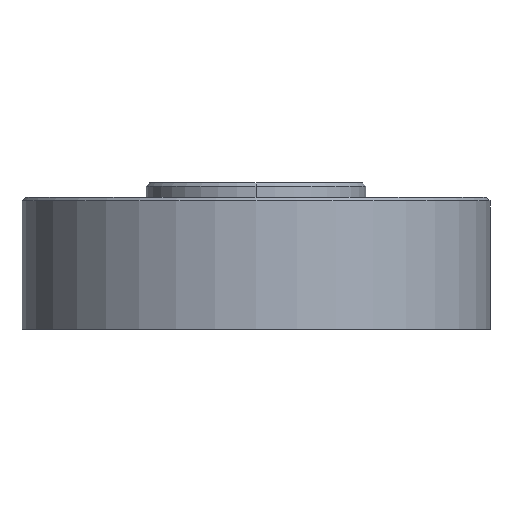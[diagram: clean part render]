
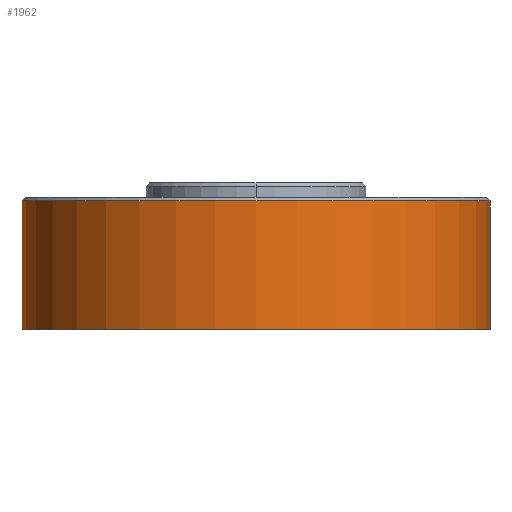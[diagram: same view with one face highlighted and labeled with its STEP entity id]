
A CAD part, left-side view. The second image highlights one B-rep face of the part: STEP entity #1962.
In plain terms, the highlighted cylindrical face has radius 101.575 mm (diameter 203.149 mm), a partial arc.
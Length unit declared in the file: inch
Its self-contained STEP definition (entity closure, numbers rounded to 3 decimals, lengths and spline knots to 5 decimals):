
#241 = CARTESIAN_POINT ( 'NONE',  ( 0., 3.999, -2.249 ) ) ;
#292 = EDGE_CURVE ( 'NONE', #7356, #8483, #6068, .T. ) ;
#667 = ORIENTED_EDGE ( 'NONE', *, *, #292, .F. ) ;
#1163 = CIRCLE ( 'NONE', #1164, 3.999 ) ;
#1164 = AXIS2_PLACEMENT_3D ( 'NONE', #1165, #1166, #1167 ) ;
#1165 = CARTESIAN_POINT ( 'NONE',  ( 0., 0., -2.249 ) ) ;
#1166 = DIRECTION ( 'NONE',  ( 0., 0., 1. ) ) ;
#1167 = DIRECTION ( 'NONE',  ( 0., 1., 0. ) ) ;
#1196 = ORIENTED_EDGE ( 'NONE', *, *, #2603, .F. ) ;
#1719 = EDGE_LOOP ( 'NONE', ( #1196, #667, #8276, #7580, #7059 ) ) ;
#1962 = ADVANCED_FACE ( 'NONE', ( #6838 ), #6839, .T. ) ;
#2365 = VERTEX_POINT ( 'NONE', #7054 ) ;
#2603 = EDGE_CURVE ( 'NONE', #8483, #2365, #7224, .T. ) ;
#2627 = CARTESIAN_POINT ( 'NONE',  ( 0., 3.999, -0.06 ) ) ;
#3332 = CARTESIAN_POINT ( 'NONE',  ( 0., -3.999, -0.06 ) ) ;
#5232 = EDGE_CURVE ( 'NONE', #5602, #5330, #7119, .T. ) ;
#5330 = VERTEX_POINT ( 'NONE', #7541 ) ;
#5464 = EDGE_CURVE ( 'NONE', #7356, #5602, #8117, .T. ) ;
#5602 = VERTEX_POINT ( 'NONE', #241 ) ;
#5838 = EDGE_CURVE ( 'NONE', #5330, #2365, #1163, .T. ) ;
#6068 = CIRCLE ( 'NONE', #6069, 3.999 ) ;
#6069 = AXIS2_PLACEMENT_3D ( 'NONE', #6070, #6071, #6072 ) ;
#6070 = CARTESIAN_POINT ( 'NONE',  ( 0., 0., -0.06 ) ) ;
#6071 = DIRECTION ( 'NONE',  ( 0., 0., 1. ) ) ;
#6072 = DIRECTION ( 'NONE',  ( -1., 0., 0. ) ) ;
#6838 = FACE_OUTER_BOUND ( 'NONE', #1719, .T. ) ;
#6839 = CYLINDRICAL_SURFACE ( 'NONE', #6840, 3.999 ) ;
#6840 = AXIS2_PLACEMENT_3D ( 'NONE', #6841, #6842, #6852 ) ;
#6841 = CARTESIAN_POINT ( 'NONE',  ( 0., 0., -0.06 ) ) ;
#6842 = DIRECTION ( 'NONE',  ( 0., 0., -1. ) ) ;
#6852 = DIRECTION ( 'NONE',  ( 0., 1., 0. ) ) ;
#7054 = CARTESIAN_POINT ( 'NONE',  ( 0., -3.999, -2.249 ) ) ;
#7059 = ORIENTED_EDGE ( 'NONE', *, *, #5838, .T. ) ;
#7119 = CIRCLE ( 'NONE', #7120, 3.999 ) ;
#7120 = AXIS2_PLACEMENT_3D ( 'NONE', #7121, #7122, #7123 ) ;
#7121 = CARTESIAN_POINT ( 'NONE',  ( 0., 0., -2.249 ) ) ;
#7122 = DIRECTION ( 'NONE',  ( 0., 0., 1. ) ) ;
#7123 = DIRECTION ( 'NONE',  ( 0., 1., 0. ) ) ;
#7224 = LINE ( 'NONE', #7225, #7226 ) ;
#7225 = CARTESIAN_POINT ( 'NONE',  ( 0., -3.999, -0.06 ) ) ;
#7226 = VECTOR ( 'NONE', #7227, 39.37008 ) ;
#7227 = DIRECTION ( 'NONE',  ( 0., 0., -1. ) ) ;
#7356 = VERTEX_POINT ( 'NONE', #2627 ) ;
#7541 = CARTESIAN_POINT ( 'NONE',  ( -3.999, 0., -2.249 ) ) ;
#7580 = ORIENTED_EDGE ( 'NONE', *, *, #5232, .T. ) ;
#8117 = LINE ( 'NONE', #8118, #8119 ) ;
#8118 = CARTESIAN_POINT ( 'NONE',  ( 0., 3.999, -0.06 ) ) ;
#8119 = VECTOR ( 'NONE', #8120, 39.37008 ) ;
#8120 = DIRECTION ( 'NONE',  ( 0., 0., -1. ) ) ;
#8276 = ORIENTED_EDGE ( 'NONE', *, *, #5464, .T. ) ;
#8483 = VERTEX_POINT ( 'NONE', #3332 ) ;
